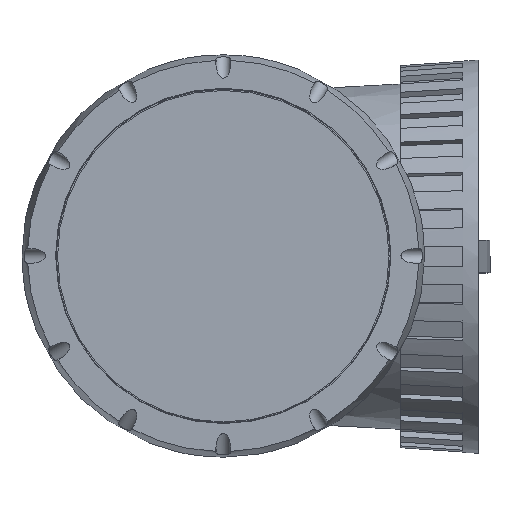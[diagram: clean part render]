
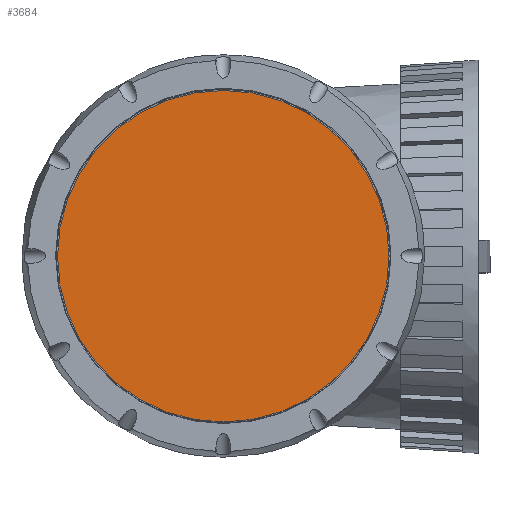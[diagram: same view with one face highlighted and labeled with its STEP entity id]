
A CAD part, top view. The second image highlights one B-rep face of the part: STEP entity #3684.
In plain terms, the highlighted planar face has unit normal (0, 0, 1).
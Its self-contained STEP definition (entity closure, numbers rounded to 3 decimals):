
#724=PLANE('',#3907);
#916=FACE_OUTER_BOUND('',#1127,.T.);
#1127=EDGE_LOOP('',(#2394));
#1354=CIRCLE('',#3904,45.1);
#1477=VERTEX_POINT('',#5260);
#1847=EDGE_CURVE('',#1477,#1477,#1354,.T.);
#2394=ORIENTED_EDGE('',*,*,#1847,.T.);
#3684=ADVANCED_FACE('',(#916),#724,.T.);
#3904=AXIS2_PLACEMENT_3D('',#5261,#4238,#4239);
#3907=AXIS2_PLACEMENT_3D('',#5265,#4244,#4245);
#4238=DIRECTION('center_axis',(0.,0.,1.));
#4239=DIRECTION('ref_axis',(-1.,0.,0.));
#4244=DIRECTION('center_axis',(0.,0.,1.));
#4245=DIRECTION('ref_axis',(1.,0.,0.));
#5260=CARTESIAN_POINT('',(45.1,0.,192.));
#5261=CARTESIAN_POINT('Origin',(0.,0.,192.));
#5265=CARTESIAN_POINT('Origin',(0.,0.,
192.));
